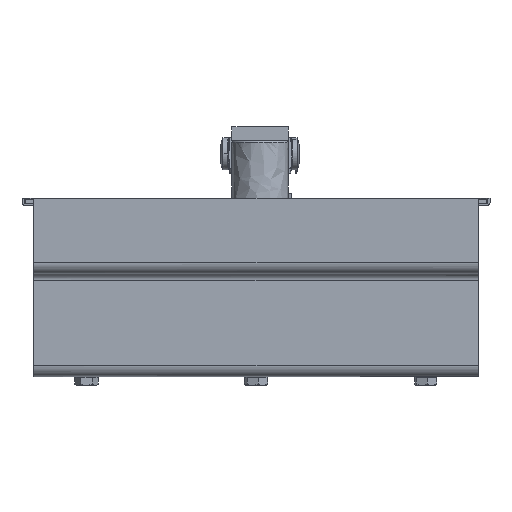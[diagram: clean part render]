
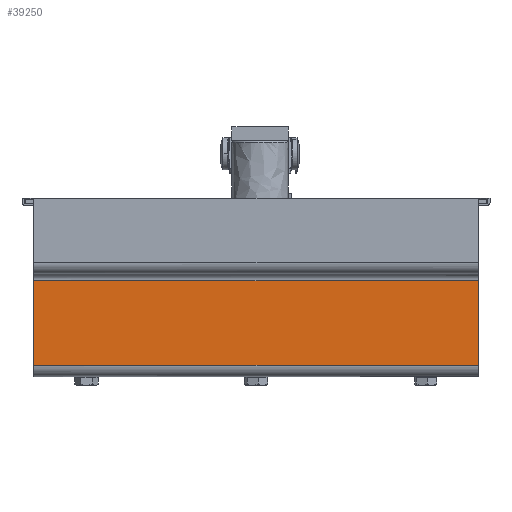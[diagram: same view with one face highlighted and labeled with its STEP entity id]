
A CAD part, front view. The second image highlights one B-rep face of the part: STEP entity #39250.
In plain terms, the highlighted free-form (B-spline) face has degree [1, 1] with [2, 2] control points.
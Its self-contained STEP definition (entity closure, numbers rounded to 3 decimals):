
#35870 = CARTESIAN_POINT ('', (114.55, -82.122, 13.15));
#35880 = VERTEX_POINT ('', #35870);
#36050 = CARTESIAN_POINT ('', (114.55, -82.122, -61.85));
#36060 = VERTEX_POINT ('', #36050);
#36070 = CARTESIAN_POINT ('', (114.55, -82.122, 13.15));
#36080 = CARTESIAN_POINT ('', (114.55, -82.122, -61.85));
#36090 = B_SPLINE_CURVE_WITH_KNOTS ('', 1, (#36070, #36080), .UNSPECIFIED., .F., .U., (2, 2), (0., 1.), .UNSPECIFIED.);
#36100 = EDGE_CURVE ('', #35880, #36060, #36090, .T.);
#37790 = CARTESIAN_POINT ('', (-278.45, -82.122, 13.15));
#37800 = VERTEX_POINT ('', #37790);
#37810 = CARTESIAN_POINT ('', (-278.45, -82.122, -61.85));
#37820 = VERTEX_POINT ('', #37810);
#37830 = CARTESIAN_POINT ('', (-278.45, -82.122, 13.15));
#37840 = CARTESIAN_POINT ('', (-278.45, -82.122, -61.85));
#37850 = B_SPLINE_CURVE_WITH_KNOTS ('', 1, (#37830, #37840), .UNSPECIFIED., .F., .U., (2, 2), (0., 1.), .UNSPECIFIED.);
#37860 = EDGE_CURVE ('', #37800, #37820, #37850, .T.);
#38930 = CARTESIAN_POINT ('', (-278.45, -82.122, 13.15));
#38940 = CARTESIAN_POINT ('', (114.55, -82.122, 13.15));
#38950 = B_SPLINE_CURVE_WITH_KNOTS ('', 1, (#38930, #38940), .UNSPECIFIED., .F., .U., (2, 2), (0., 1.), .UNSPECIFIED.);
#38960 = EDGE_CURVE ('', #37800, #35880, #38950, .T.);
#39100 = ORIENTED_EDGE ('', *, *, #38960, .F.);
#39110 = ORIENTED_EDGE ('', *, *, #37860, .T.);
#39120 = CARTESIAN_POINT ('', (-278.45, -82.122, -61.85));
#39130 = CARTESIAN_POINT ('', (114.55, -82.122, -61.85));
#39140 = B_SPLINE_CURVE_WITH_KNOTS ('', 1, (#39120, #39130), .UNSPECIFIED., .F., .U., (2, 2), (0., 1.), .UNSPECIFIED.);
#39150 = EDGE_CURVE ('', #37820, #36060, #39140, .T.);
#39160 = ORIENTED_EDGE ('', *, *, #39150, .T.);
#39170 = ORIENTED_EDGE ('', *, *, #36100, .F.);
#39180 = EDGE_LOOP ('', (#39100, #39110, #39160, #39170));
#39190 = FACE_OUTER_BOUND ('', #39180, .T.);
#39200 = CARTESIAN_POINT ('', (-278.45, -82.122, 13.15));
#39210 = CARTESIAN_POINT ('', (114.55, -82.122, 13.15));
#39220 = CARTESIAN_POINT ('', (-278.45, -82.122, -61.85));
#39230 = CARTESIAN_POINT ('', (114.55, -82.122, -61.85));
#39240 = B_SPLINE_SURFACE_WITH_KNOTS ('', 1, 1, ((#39200, #39210), (#39220, #39230)), .UNSPECIFIED., .F., .F., .U., (2, 2), (2, 2), (0., 1.), (0., 1.), .UNSPECIFIED.);
#39250 = ADVANCED_FACE ('', (#39190), #39240, .T.);
